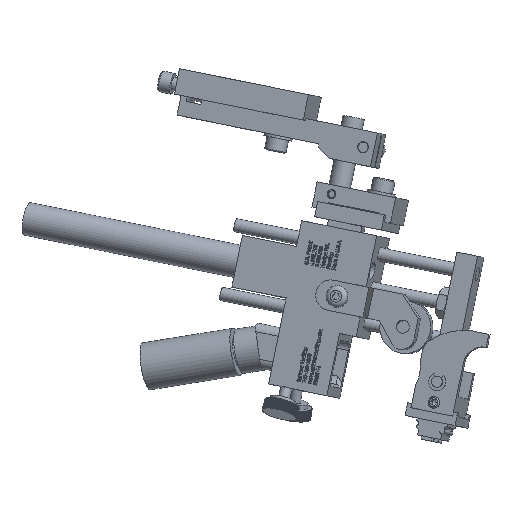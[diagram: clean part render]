
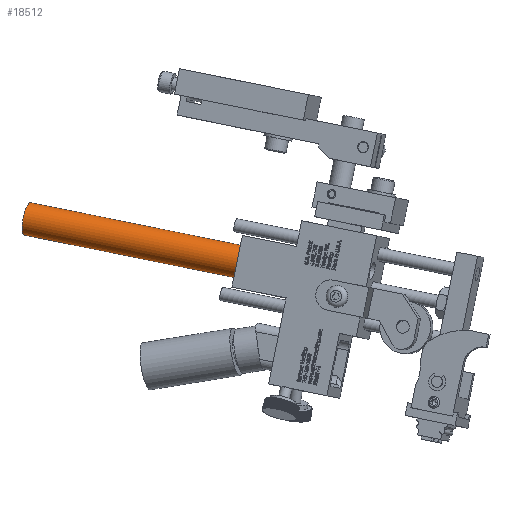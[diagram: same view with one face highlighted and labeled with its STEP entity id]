
A CAD part, top view. The second image highlights one B-rep face of the part: STEP entity #18512.
In plain terms, the highlighted cylindrical face has radius 5.969 mm (diameter 11.938 mm), a full revolution.
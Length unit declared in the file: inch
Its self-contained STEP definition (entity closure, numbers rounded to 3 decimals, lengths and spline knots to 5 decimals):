
#18485=CARTESIAN_POINT('',(-1.3136,1.03465,-0.43241));
#18486=DIRECTION('',(-0.949,0.193,-0.249));
#18487=DIRECTION('',(0.244,-0.049,-0.969));
#18488=AXIS2_PLACEMENT_3D('',#18485,#18486,#18487);
#18489=CYLINDRICAL_SURFACE('',#18488,0.235);
#18490=CARTESIAN_POINT('',(-4.456,1.67191,-1.01288));
#18491=VERTEX_POINT('',#18490);
#18492=CARTESIAN_POINT('',(-4.39873,1.6603,-1.2405));
#18493=DIRECTION('',(0.949,-0.193,0.249));
#18494=DIRECTION('',(0.244,-0.049,-0.969));
#18495=AXIS2_PLACEMENT_3D('',#18492,#18493,#18494);
#18496=CIRCLE('',#18495,0.235);
#18497=EDGE_CURVE('',#18491,#18491,#18496,.T.);
#18498=ORIENTED_EDGE('',*,*,#18497,.T.);
#18499=EDGE_LOOP('',(#18498));
#18500=FACE_OUTER_BOUND('',#18499,.T.);
#18501=CARTESIAN_POINT('',(-1.37086,1.04626,-0.20479));
#18502=VERTEX_POINT('',#18501);
#18503=CARTESIAN_POINT('',(-1.3136,1.03465,-0.43241));
#18504=DIRECTION('',(0.949,-0.193,0.249));
#18505=DIRECTION('',(0.244,-0.049,-0.969));
#18506=AXIS2_PLACEMENT_3D('',#18503,#18504,#18505);
#18507=CIRCLE('',#18506,0.235);
#18508=EDGE_CURVE('',#18502,#18502,#18507,.T.);
#18509=ORIENTED_EDGE('',*,*,#18508,.F.);
#18510=EDGE_LOOP('',(#18509));
#18511=FACE_BOUND('',#18510,.T.);
#18512=ADVANCED_FACE('',(#18500,#18511),#18489,.T.);
